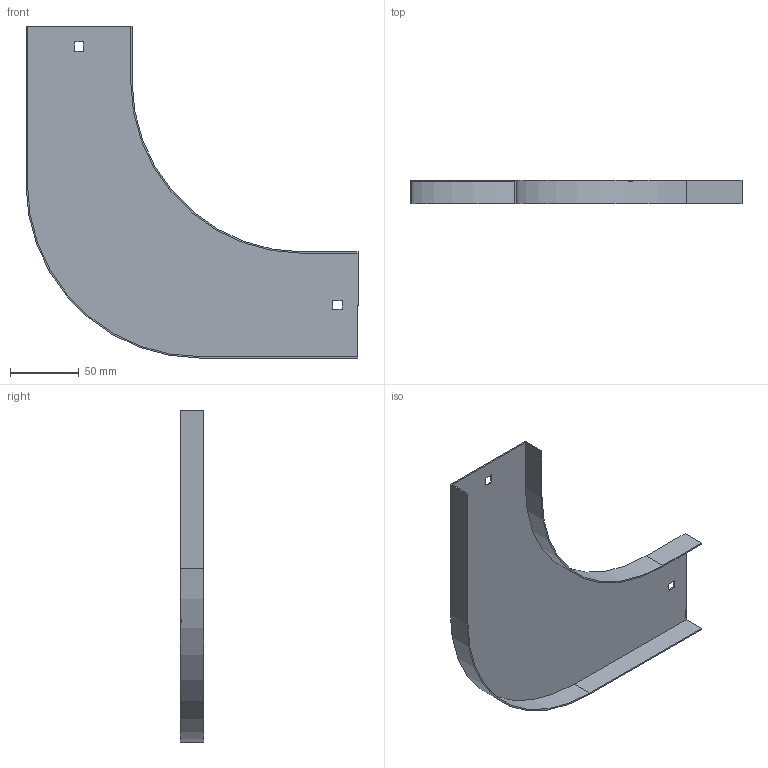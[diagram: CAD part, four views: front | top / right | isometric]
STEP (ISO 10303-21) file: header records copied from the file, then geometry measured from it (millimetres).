
FILE_DESCRIPTION (( 'STEP AP214' ), '1' );
FILE_NAME ('OP9_075.step', '2025-07-16T09:14:46', ( '' ), ( '' ), 'SwSTEP 2.0', 'SolidWorks 2023', '' );
FILE_SCHEMA (( 'AUTOMOTIVE_DESIGN' ));
Length unit declared in the file: millimetre
Products named in the file (1): OP9_075
Bounding box: 241 x 17 x 241 mm (x, y, z)
Volume: 42236.9 mm3; surface area: 85446.5 mm2
Topology: 1 solids, 1 shells, 26 faces, 72 edges, 48 vertices
Faces by surface type: plane 22, cylinder 4
Entity records: 855 total; most frequent: CARTESIAN_POINT 147, ORIENTED_EDGE 144, DIRECTION 134, EDGE_CURVE 72, LINE 64, VECTOR 64, VERTEX_POINT 48, AXIS2_PLACEMENT_3D 35
